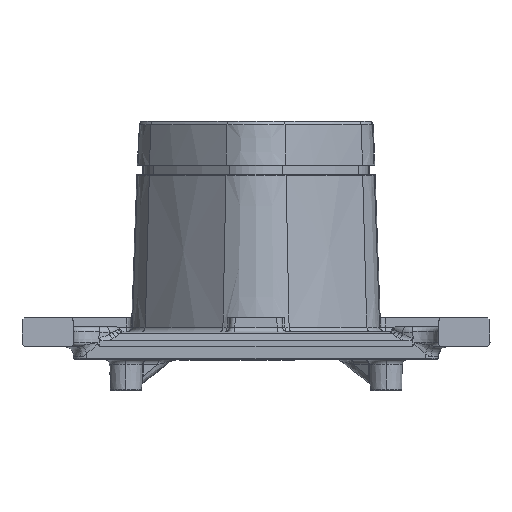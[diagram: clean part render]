
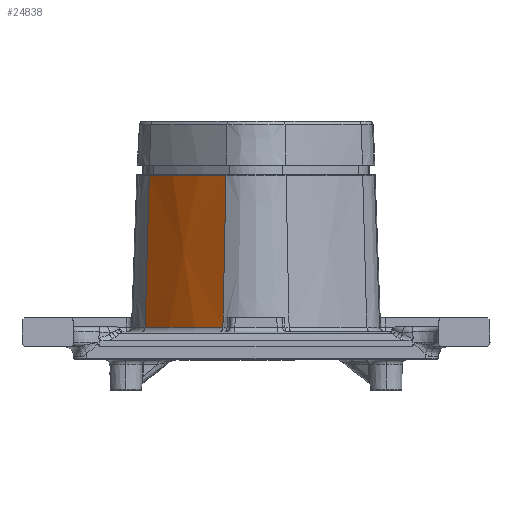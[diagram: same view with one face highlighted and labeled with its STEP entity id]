
A CAD part, left-side view. The second image highlights one B-rep face of the part: STEP entity #24838.
In plain terms, the highlighted conical face has half-angle 2 degrees and reference radius 150 mm.
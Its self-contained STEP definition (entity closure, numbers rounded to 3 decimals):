
#24811=AXIS2_PLACEMENT_3D('Cone Axis2P3D',#24808,#24809,#24810) ;
#24815=AXIS2_PLACEMENT_3D('Circle Axis2P3D',#24813,#24814,$) ;
#24829=AXIS2_PLACEMENT_3D('Circle Axis2P3D',#24827,#24828,$) ;
#24236=CARTESIAN_POINT('Vertex',(-56.211,42.583,-14.07)) ;
#24239=CARTESIAN_POINT('Line Origine',(-55.584,41.819,14.25)) ;
#24243=CARTESIAN_POINT('Vertex',(-54.918,41.007,44.307)) ;
#24808=CARTESIAN_POINT('Axis2P3D Location',(40.184,-75.,44.5)) ;
#24813=CARTESIAN_POINT('Axis2P3D Location',(40.184,-75.,-14.07)) ;
#24817=CARTESIAN_POINT('Vertex',(-84.007,12.718,-14.07)) ;
#24820=CARTESIAN_POINT('Line Origine',(-83.199,12.148,14.25)) ;
#24824=CARTESIAN_POINT('Vertex',(-82.341,11.542,44.307)) ;
#24827=CARTESIAN_POINT('Axis2P3D Location',(40.184,-75.,44.307)) ;
#24240=DIRECTION('Vector Direction',(-0.022,0.027,-0.999)) ;
#24809=DIRECTION('Axis2P3D Direction',(-0.,-0.,-1.)) ;
#24810=DIRECTION('Axis2P3D XDirection',(-0.634,0.773,0.)) ;
#24814=DIRECTION('Axis2P3D Direction',(0.,0.,1.)) ;
#24821=DIRECTION('Vector Direction',(-0.029,0.02,-0.999)) ;
#24828=DIRECTION('Axis2P3D Direction',(0.,0.,1.)) ;
#24241=VECTOR('Line Direction',#24240,1.) ;
#24822=VECTOR('Line Direction',#24821,1.) ;
#24833=ORIENTED_EDGE('',*,*,#24819,.T.) ;
#24834=ORIENTED_EDGE('',*,*,#24826,.T.) ;
#24835=ORIENTED_EDGE('',*,*,#24831,.F.) ;
#24836=ORIENTED_EDGE('',*,*,#24245,.F.) ;
#24838=ADVANCED_FACE('Hold frame . surface acc.draw 140x MET - PLK BG-C WANDMONTAGE.1\\Adapter komplett',(#24837),#24812,.T.) ;
#24816=CIRCLE('generated circle',#24815,152.045) ;
#24830=CIRCLE('generated circle',#24829,150.007) ;
#24812=CONICAL_SURFACE('Cone',#24811,150.,0.035) ;
#24245=EDGE_CURVE('',#24237,#24244,#24242,.F.) ;
#24819=EDGE_CURVE('',#24237,#24818,#24816,.T.) ;
#24826=EDGE_CURVE('',#24818,#24825,#24823,.F.) ;
#24831=EDGE_CURVE('',#24244,#24825,#24830,.T.) ;
#24832=EDGE_LOOP('',(#24833,#24834,#24835,#24836)) ;
#24837=FACE_OUTER_BOUND('',#24832,.T.) ;
#24242=LINE('Line',#24239,#24241) ;
#24823=LINE('Line',#24820,#24822) ;
#24237=VERTEX_POINT('',#24236) ;
#24244=VERTEX_POINT('',#24243) ;
#24818=VERTEX_POINT('',#24817) ;
#24825=VERTEX_POINT('',#24824) ;
